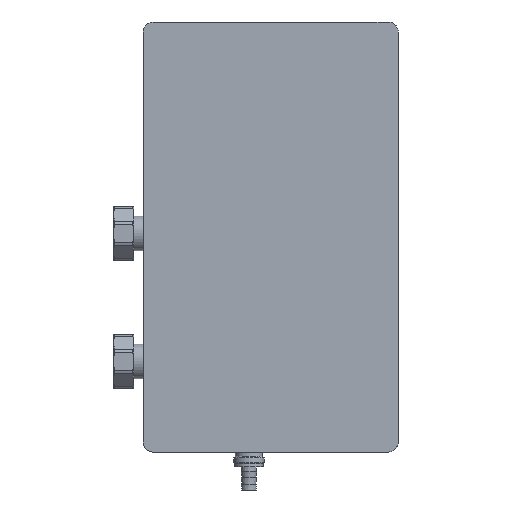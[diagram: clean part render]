
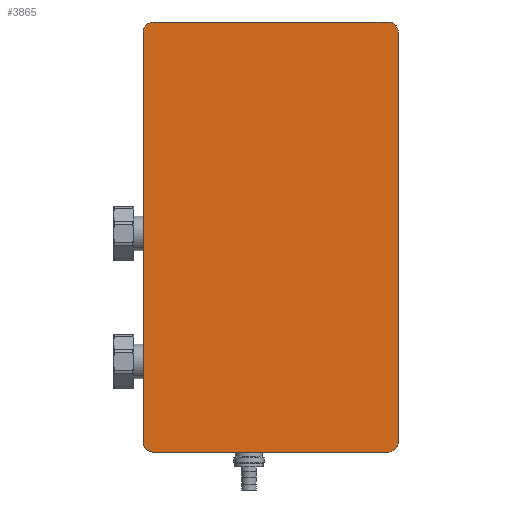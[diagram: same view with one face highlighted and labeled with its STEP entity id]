
A CAD part, front view. The second image highlights one B-rep face of the part: STEP entity #3865.
In plain terms, the highlighted planar face has unit normal (0, -1, 0).
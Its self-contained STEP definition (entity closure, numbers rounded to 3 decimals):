
#253=CIRCLE('',#4219,10.);
#254=CIRCLE('',#4222,10.);
#268=CIRCLE('',#4252,10.);
#269=CIRCLE('',#4253,10.);
#616=FACE_OUTER_BOUND('',#856,.T.);
#856=EDGE_LOOP('',(#2914,#2915,#2916,#2917,#2918,#2919,#2920,#2921));
#1047=LINE('',#6487,#1189);
#1050=LINE('',#6495,#1192);
#1065=LINE('',#6566,#1207);
#1067=LINE('',#6572,#1209);
#1189=VECTOR('',#5012,10.);
#1192=VECTOR('',#5021,10.);
#1207=VECTOR('',#5090,10.);
#1209=VECTOR('',#5096,10.);
#1568=VERTEX_POINT('',#6479);
#1569=VERTEX_POINT('',#6481);
#1570=VERTEX_POINT('',#6485);
#1571=VERTEX_POINT('',#6489);
#1572=VERTEX_POINT('',#6493);
#1589=VERTEX_POINT('',#6565);
#1590=VERTEX_POINT('',#6569);
#1591=VERTEX_POINT('',#6571);
#2027=EDGE_CURVE('',#1569,#1568,#253,.T.);
#2030=EDGE_CURVE('',#1568,#1570,#1047,.T.);
#2032=EDGE_CURVE('',#1570,#1571,#254,.T.);
#2034=EDGE_CURVE('',#1571,#1572,#1050,.T.);
#2063=EDGE_CURVE('',#1589,#1569,#1065,.T.);
#2065=EDGE_CURVE('',#1572,#1590,#268,.T.);
#2066=EDGE_CURVE('',#1590,#1591,#1067,.T.);
#2067=EDGE_CURVE('',#1591,#1589,#269,.T.);
#2914=ORIENTED_EDGE('',*,*,#2034,.T.);
#2915=ORIENTED_EDGE('',*,*,#2065,.T.);
#2916=ORIENTED_EDGE('',*,*,#2066,.T.);
#2917=ORIENTED_EDGE('',*,*,#2067,.T.);
#2918=ORIENTED_EDGE('',*,*,#2063,.T.);
#2919=ORIENTED_EDGE('',*,*,#2027,.T.);
#2920=ORIENTED_EDGE('',*,*,#2030,.T.);
#2921=ORIENTED_EDGE('',*,*,#2032,.T.);
#3522=PLANE('',#4251);
#3865=ADVANCED_FACE('',(#616),#3522,.F.);
#4219=AXIS2_PLACEMENT_3D('',#6482,#5006,#5007);
#4222=AXIS2_PLACEMENT_3D('',#6491,#5016,#5017);
#4251=AXIS2_PLACEMENT_3D('',#6568,#5092,#5093);
#4252=AXIS2_PLACEMENT_3D('',#6570,#5094,#5095);
#4253=AXIS2_PLACEMENT_3D('',#6573,#5097,#5098);
#5006=DIRECTION('center_axis',(0.,-1.,0.));
#5007=DIRECTION('ref_axis',(1.,0.,0.));
#5012=DIRECTION('',(0.,0.,1.));
#5016=DIRECTION('center_axis',(0.,-1.,0.));
#5017=DIRECTION('ref_axis',(0.,0.,1.));
#5021=DIRECTION('',(-1.,0.,0.));
#5090=DIRECTION('',(1.,0.,0.));
#5092=DIRECTION('center_axis',(0.,1.,0.));
#5093=DIRECTION('ref_axis',(0.,0.,1.));
#5094=DIRECTION('center_axis',(0.,-1.,0.));
#5095=DIRECTION('ref_axis',(1.,0.,0.));
#5096=DIRECTION('',(0.,0.,-1.));
#5097=DIRECTION('center_axis',(0.,-1.,0.));
#5098=DIRECTION('ref_axis',(0.,0.,1.));
#6479=CARTESIAN_POINT('',(124.5,-74.,10.));
#6481=CARTESIAN_POINT('',(114.5,-74.,0.));
#6482=CARTESIAN_POINT('Origin',(114.5,-74.,10.));
#6485=CARTESIAN_POINT('',(124.5,-74.,410.));
#6487=CARTESIAN_POINT('',(124.5,-74.,410.));
#6489=CARTESIAN_POINT('',(114.5,-74.,420.));
#6491=CARTESIAN_POINT('Origin',(114.5,-74.,410.));
#6493=CARTESIAN_POINT('',(-114.5,-74.,420.));
#6495=CARTESIAN_POINT('',(-114.5,-74.,420.));
#6565=CARTESIAN_POINT('',(-114.5,-74.,0.));
#6566=CARTESIAN_POINT('',(-114.5,-74.,0.));
#6568=CARTESIAN_POINT('Origin',(0.,-74.,210.));
#6569=CARTESIAN_POINT('',(-124.5,-74.,410.));
#6570=CARTESIAN_POINT('Origin',(-114.5,-74.,410.));
#6571=CARTESIAN_POINT('',(-124.5,-74.,10.));
#6572=CARTESIAN_POINT('',(-124.5,-74.,410.));
#6573=CARTESIAN_POINT('Origin',(-114.5,-74.,10.));
